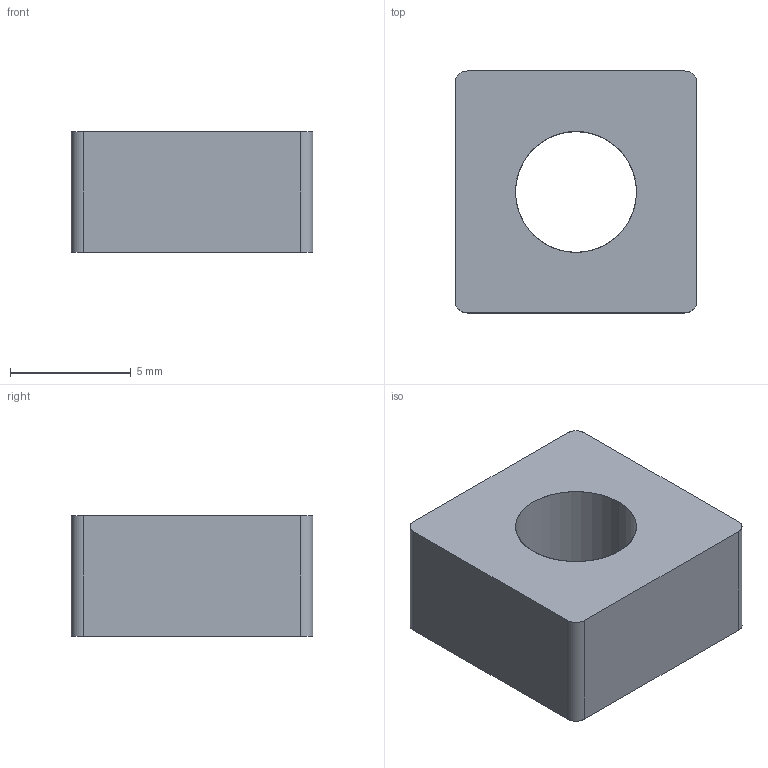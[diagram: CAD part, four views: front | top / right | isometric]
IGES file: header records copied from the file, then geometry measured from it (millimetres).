
Start section: SolidWorks IGES file using analytic representation for surfaces
Global section: file name: C:\Users\admin\Desktop\IGES\J3N6.igs; native system: SolidWorks 2014; preprocessor: SolidWorks 2014; author: admin_pc; date: 170524.165528; units: millimetre
Bounding box: 10 x 10 x 5 mm (x, y, z)
Surface area: 434.5 mm2 (no closed solid volume)
Topology: 0 solids, 0 shells, 12 faces, 144 edges, 144 vertices
Faces by surface type: revolution 6, bspline 6
